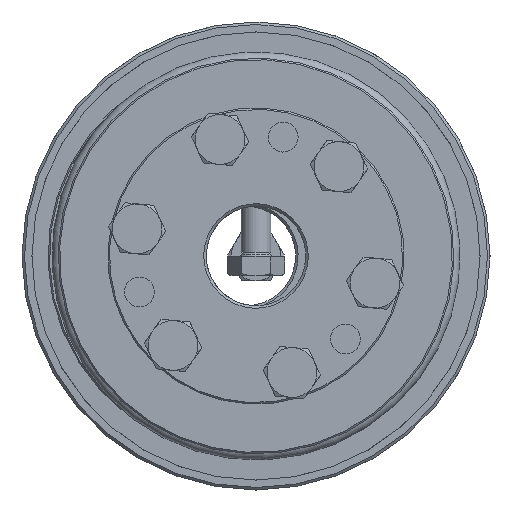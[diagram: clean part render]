
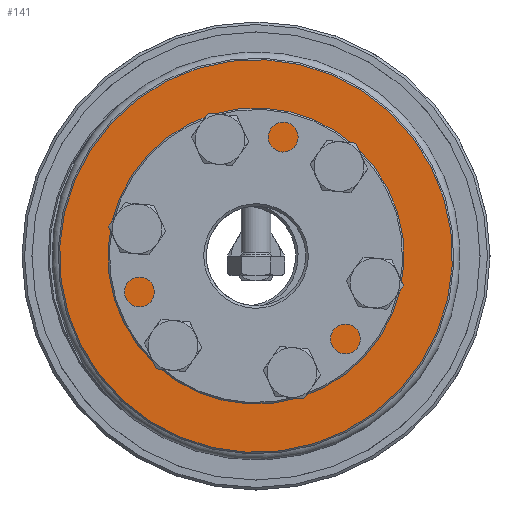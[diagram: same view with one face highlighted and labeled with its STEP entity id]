
A CAD part, left-side view. The second image highlights one B-rep face of the part: STEP entity #141.
In plain terms, the highlighted planar face has unit normal (-1, 0, 0) as drawn and (1, 0, 0) by its records, which use the part's own axes.
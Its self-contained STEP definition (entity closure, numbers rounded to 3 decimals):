
#141 = ADVANCED_FACE( 'NONE', ( #246, #247, #248, #249, #250, #251, #252, #253 ), #254, .F. );
#246 = FACE_OUTER_BOUND( '', #410, .T. );
#247 = FACE_BOUND( '', #411, .T. );
#248 = FACE_BOUND( '', #412, .T. );
#249 = FACE_BOUND( '', #413, .T. );
#250 = FACE_BOUND( '', #414, .T. );
#251 = FACE_BOUND( '', #415, .T. );
#252 = FACE_BOUND( '', #416, .T. );
#253 = FACE_BOUND( '', #417, .T. );
#254 = PLANE( '', #418 );
#410 = EDGE_LOOP( '', ( #778 ) );
#411 = EDGE_LOOP( '', ( #779 ) );
#412 = EDGE_LOOP( '', ( #780 ) );
#413 = EDGE_LOOP( '', ( #781 ) );
#414 = EDGE_LOOP( '', ( #782 ) );
#415 = EDGE_LOOP( '', ( #783 ) );
#416 = EDGE_LOOP( '', ( #784 ) );
#417 = EDGE_LOOP( '', ( #785 ) );
#418 = AXIS2_PLACEMENT_3D( '', #786, #787, #788 );
#778 = ORIENTED_EDGE( '', *, *, #1542, .T. );
#779 = ORIENTED_EDGE( '', *, *, #1543, .T. );
#780 = ORIENTED_EDGE( '', *, *, #1544, .F. );
#781 = ORIENTED_EDGE( '', *, *, #1545, .F. );
#782 = ORIENTED_EDGE( '', *, *, #1546, .F. );
#783 = ORIENTED_EDGE( '', *, *, #1547, .F. );
#784 = ORIENTED_EDGE( '', *, *, #1548, .F. );
#785 = ORIENTED_EDGE( '', *, *, #1549, .F. );
#786 = CARTESIAN_POINT( '', ( 20., 39.75, 0. ) );
#787 = DIRECTION( '', ( -1., 0., 0. ) );
#788 = DIRECTION( '', ( 0., 0., 1. ) );
#1542 = EDGE_CURVE( 'NONE', #2228, #2228, #2229, .T. );
#1543 = EDGE_CURVE( 'NONE', #2230, #2230, #2231, .T. );
#1544 = EDGE_CURVE( 'NONE', #2232, #2232, #2233, .T. );
#1545 = EDGE_CURVE( 'NONE', #2234, #2234, #2235, .T. );
#1546 = EDGE_CURVE( 'NONE', #2236, #2236, #2237, .T. );
#1547 = EDGE_CURVE( 'NONE', #2238, #2238, #2239, .T. );
#1548 = EDGE_CURVE( 'NONE', #2240, #2240, #2241, .T. );
#1549 = EDGE_CURVE( 'NONE', #2242, #2242, #2243, .T. );
#2228 = VERTEX_POINT( '', #3590 );
#2229 = CIRCLE( '', #3591, 39.45 );
#2230 = VERTEX_POINT( '', #3592 );
#2231 = CIRCLE( '', #3593, 20.835 );
#2232 = VERTEX_POINT( '', #3594 );
#2233 = CIRCLE( '', #3595, 3. );
#2234 = VERTEX_POINT( '', #3596 );
#2235 = CIRCLE( '', #3597, 3. );
#2236 = VERTEX_POINT( '', #3598 );
#2237 = CIRCLE( '', #3599, 3. );
#2238 = VERTEX_POINT( '', #3600 );
#2239 = CIRCLE( '', #3601, 3. );
#2240 = VERTEX_POINT( '', #3602 );
#2241 = CIRCLE( '', #3603, 3. );
#2242 = VERTEX_POINT( '', #3604 );
#2243 = CIRCLE( '', #3605, 3. );
#3590 = CARTESIAN_POINT( '', ( 20., 0., 39.45 ) );
#3591 = AXIS2_PLACEMENT_3D( '', #3973, #3974, #3975 );
#3592 = CARTESIAN_POINT( '', ( 20., 0., 20.835 ) );
#3593 = AXIS2_PLACEMENT_3D( '', #3976, #3977, #3978 );
#3594 = CARTESIAN_POINT( '', ( 20., -12.25, 18.218 ) );
#3595 = AXIS2_PLACEMENT_3D( '', #3979, #3980, #3981 );
#3596 = CARTESIAN_POINT( '', ( 20., 24.5, -3. ) );
#3597 = AXIS2_PLACEMENT_3D( '', #3982, #3983, #3984 );
#3598 = CARTESIAN_POINT( '', ( 20., 12.25, -24.218 ) );
#3599 = AXIS2_PLACEMENT_3D( '', #3985, #3986, #3987 );
#3600 = CARTESIAN_POINT( '', ( 20., -12.25, -24.218 ) );
#3601 = AXIS2_PLACEMENT_3D( '', #3988, #3989, #3990 );
#3602 = CARTESIAN_POINT( '', ( 20., -24.5, -3. ) );
#3603 = AXIS2_PLACEMENT_3D( '', #3991, #3992, #3993 );
#3604 = CARTESIAN_POINT( '', ( 20., 12.25, 18.218 ) );
#3605 = AXIS2_PLACEMENT_3D( '', #3994, #3995, #3996 );
#3973 = CARTESIAN_POINT( '', ( 20., 0., 0. ) );
#3974 = DIRECTION( '', ( 1., 0., 0. ) );
#3975 = DIRECTION( '', ( 0., 0., 1. ) );
#3976 = CARTESIAN_POINT( '', ( 20., 0., 0. ) );
#3977 = DIRECTION( '', ( -1., 0., 0. ) );
#3978 = DIRECTION( '', ( 0., 0., 1. ) );
#3979 = CARTESIAN_POINT( '', ( 20., -12.25, 21.218 ) );
#3980 = DIRECTION( '', ( 1., 0., 0. ) );
#3981 = DIRECTION( '', ( 0., 0., -1. ) );
#3982 = CARTESIAN_POINT( '', ( 20., 24.5, 0. ) );
#3983 = DIRECTION( '', ( 1., 0., 0. ) );
#3984 = DIRECTION( '', ( 0., 0., -1. ) );
#3985 = CARTESIAN_POINT( '', ( 20., 12.25, -21.218 ) );
#3986 = DIRECTION( '', ( 1., 0., 0. ) );
#3987 = DIRECTION( '', ( 0., 0., -1. ) );
#3988 = CARTESIAN_POINT( '', ( 20., -12.25, -21.218 ) );
#3989 = DIRECTION( '', ( 1., 0., 0. ) );
#3990 = DIRECTION( '', ( 0., 0., -1. ) );
#3991 = CARTESIAN_POINT( '', ( 20., -24.5, 0. ) );
#3992 = DIRECTION( '', ( 1., 0., 0. ) );
#3993 = DIRECTION( '', ( 0., 0., -1. ) );
#3994 = CARTESIAN_POINT( '', ( 20., 12.25, 21.218 ) );
#3995 = DIRECTION( '', ( 1., 0., 0. ) );
#3996 = DIRECTION( '', ( 0., 0., -1. ) );
